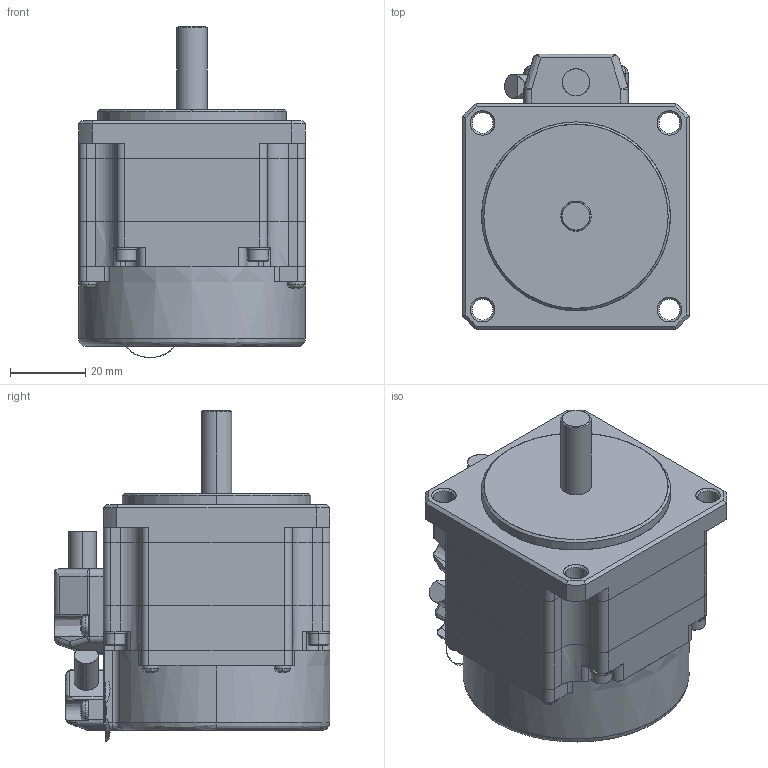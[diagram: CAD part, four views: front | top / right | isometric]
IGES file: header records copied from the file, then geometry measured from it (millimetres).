
Start section: SolidWorks IGES file using analytic representation for surfaces
Global section: file name: C:\Users\render\Documents\CAD Files\TamagawaMotors\TBL-iII-Series-14.5~80\TS4606\TS4606.IGS; native system: SolidWorks 2009; preprocessor: SolidWorks 2009; author: render; date: 100806.101552; units: millimetre
Bounding box: 60 x 73 x 87.74 mm (x, y, z)
Surface area: 43477.2 mm2 (no closed solid volume)
Topology: 0 solids, 0 shells, 710 faces, 6693 edges, 6672 vertices
Faces by surface type: bspline 362, revolution 348
